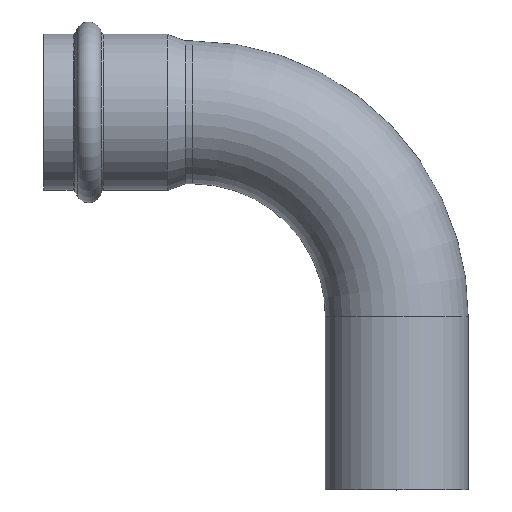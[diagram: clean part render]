
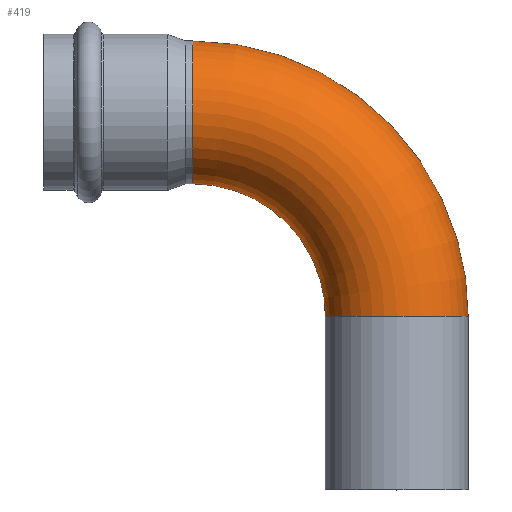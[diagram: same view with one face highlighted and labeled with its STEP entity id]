
A CAD part, top view. The second image highlights one B-rep face of the part: STEP entity #419.
In plain terms, the highlighted toroidal (fillet/blend) face has major radius 50 mm and minor radius 17.5 mm.
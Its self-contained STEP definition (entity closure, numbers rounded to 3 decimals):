
#388=CARTESIAN_POINT('',(50.0,-50.0,-17.5));
#389=VERTEX_POINT('',#388);
#390=CARTESIAN_POINT('',(50.0,-50.,0.0));
#391=DIRECTION('',(0.0,1.0,0.0));
#392=DIRECTION('',(0.0,0.0,1.0));
#393=AXIS2_PLACEMENT_3D('',#390,#391,#392);
#394=CIRCLE('',#393,17.5);
#395=EDGE_CURVE('',#389,#389,#394,.T.);
#400=CARTESIAN_POINT('',(0.0,-50.0,0.0));
#401=DIRECTION('',(0.0,0.0,-1.0));
#402=DIRECTION('',(-1.0,0.0,0.0));
#403=AXIS2_PLACEMENT_3D('',#400,#401,#402);
#404=TOROIDAL_SURFACE('',#403,50.0,17.5);
#405=ORIENTED_EDGE('',*,*,#395,.T.);
#406=EDGE_LOOP('',(#405));
#407=FACE_OUTER_BOUND('',#406,.T.);
#408=CARTESIAN_POINT('',(0.,17.5,0.0));
#409=VERTEX_POINT('',#408);
#410=CARTESIAN_POINT('',(0.,0.0,0.0));
#411=DIRECTION('',(1.0,0.0,0.0));
#412=DIRECTION('',(0.0,1.0,0.0));
#413=AXIS2_PLACEMENT_3D('',#410,#411,#412);
#414=CIRCLE('',#413,17.5);
#415=EDGE_CURVE('',#409,#409,#414,.T.);
#416=ORIENTED_EDGE('',*,*,#415,.T.);
#417=EDGE_LOOP('',(#416));
#418=FACE_BOUND('',#417,.T.);
#419=ADVANCED_FACE('',(#407,#418),#404,.T.);
